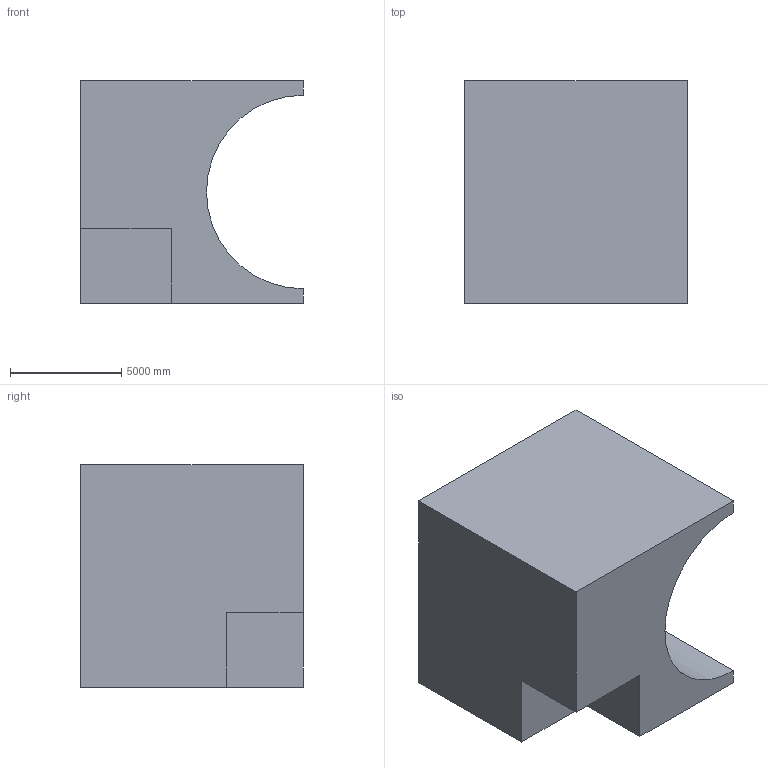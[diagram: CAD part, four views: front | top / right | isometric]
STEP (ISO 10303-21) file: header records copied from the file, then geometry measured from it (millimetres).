
FILE_DESCRIPTION (( 'STEP AP203' ), '1' );
FILE_NAME ('223.STEP', '2022-09-07T12:20:50', ( 'user' ), ( '' ), 'SwSTEP 2.0', 'SolidWorks 2021', '' );
FILE_SCHEMA (( 'CONFIG_CONTROL_DESIGN' ));
Length unit declared in the file: centimetre
Products named in the file (1): 223
Bounding box: 10000 x 10000 x 10000 mm (x, y, z)
Volume: 655664702108 mm3; surface area: 590237044.6 mm2
Topology: 1 solids, 1 shells, 11 faces, 27 edges, 18 vertices
Faces by surface type: plane 10, cylinder 1
Entity records: 400 total; most frequent: CARTESIAN_POINT 57, ORIENTED_EDGE 54, DIRECTION 53, EDGE_CURVE 27, VECTOR 25, LINE 25, VERTEX_POINT 18, AXIS2_PLACEMENT_3D 14
